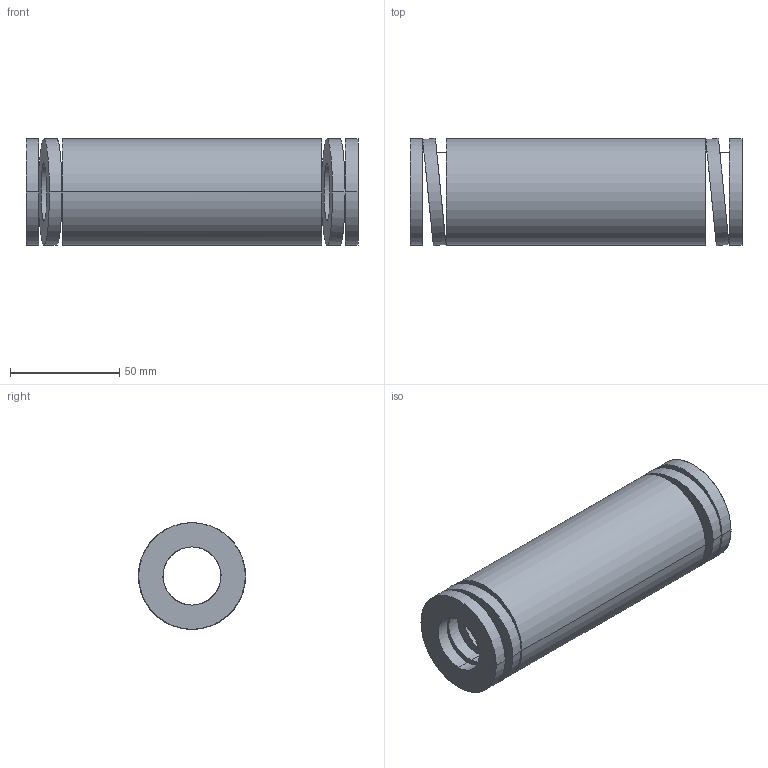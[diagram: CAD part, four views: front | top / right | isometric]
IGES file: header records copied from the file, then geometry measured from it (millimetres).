
Start section: START RECORD GO HERE.
Global section: file name: 392-B50-152.igs; native system: DASSAULT SYSTEMES CATIA V5 R20 - www.3ds.com; preprocessor: CATIA Version 5 Release 20 ; author: Utente; organization: NB04-ASUS; date: 20210813.132711; units: millimetre
Bounding box: 152 x 49.13 x 48.8 mm (x, y, z)
Surface area: 46782.8 mm2 (no closed solid volume)
Topology: 0 solids, 0 shells, 38 faces, 184 edges, 184 vertices
Faces by surface type: revolution 28, plane 10
